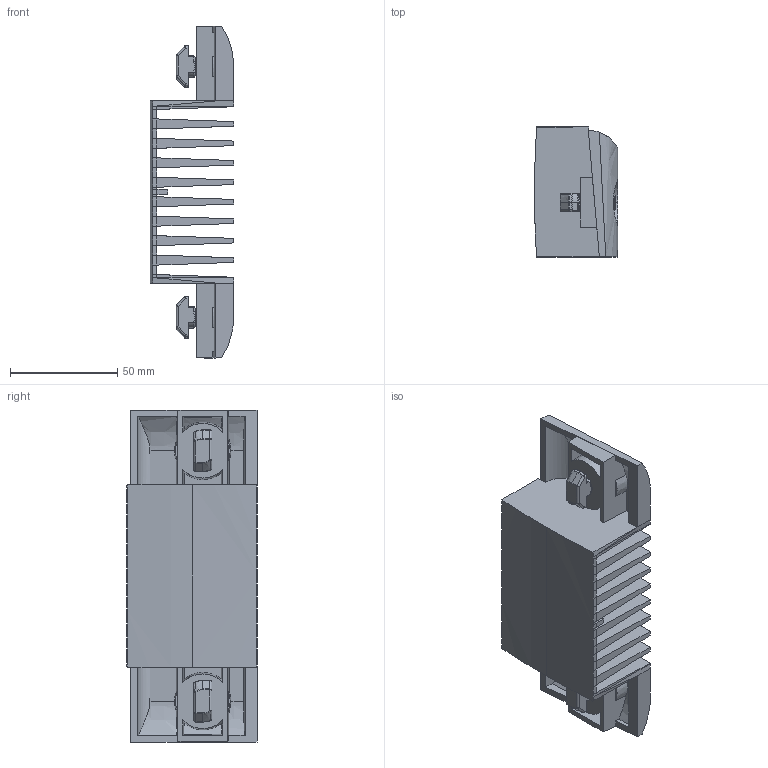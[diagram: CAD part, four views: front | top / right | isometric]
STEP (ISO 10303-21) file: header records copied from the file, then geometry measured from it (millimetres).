
FILE_DESCRIPTION (( 'STEP AP214' ), '1' );
FILE_NAME ('067RCB1COU002.STEP', '2024-09-23T11:11:52', ( '' ), ( '' ), 'SwSTEP 2.0', 'SolidWorks 2023', '' );
FILE_SCHEMA (( 'AUTOMOTIVE_DESIGN' ));
Length unit declared in the file: millimetre
Products named in the file (7): 096HK1030M0820; 067RCB1COS002; 067RCB1COU002; 4DIN125AM8M; 067RCB1COU002(1); 4DIN934M08MS01; 067RCB1COU002(2)
Assembly tree (9 placements, depth 4):
  067RCB1COU002
    067RCB1COU002(2)
      067RCB1COU002(1)
        067RCB1COS002
        4DIN125AM8M  x2
        096HK1030M0820  x2
        4DIN934M08MS01  x2
Bounding box: 38.8 x 60.7 x 155 mm (x, y, z)
Volume: 117175.5 mm3; surface area: 74608.6 mm2
Topology: 7 solids, 7 shells, 568 faces, 1430 edges, 860 vertices
Faces by surface type: plane 298, cylinder 134, bspline 82, cone 54
Entity records: 16875 total; most frequent: CARTESIAN_POINT 8235, ORIENTED_EDGE 1932, DIRECTION 1520, EDGE_CURVE 966, VERTEX_POINT 589, VECTOR 578, LINE 578, AXIS2_PLACEMENT_3D 471
